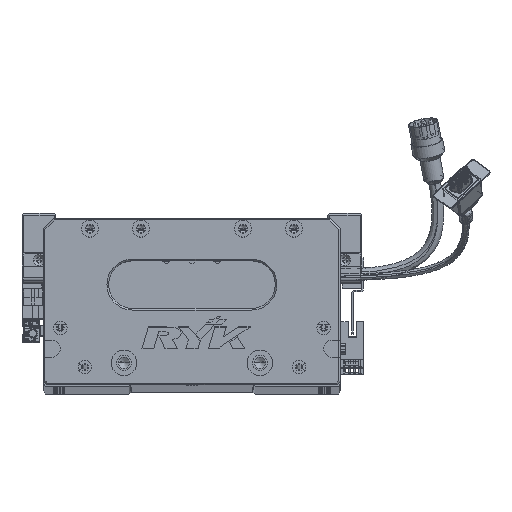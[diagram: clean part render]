
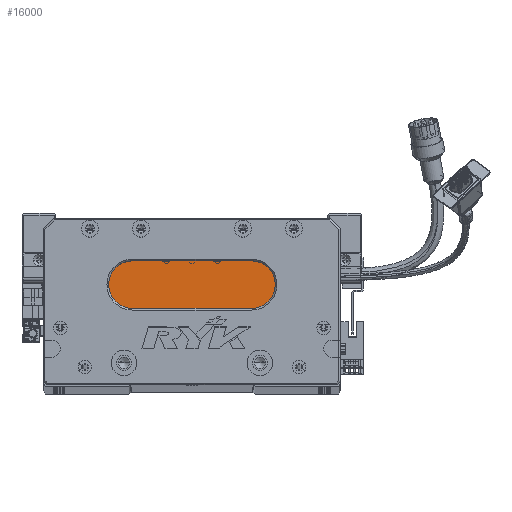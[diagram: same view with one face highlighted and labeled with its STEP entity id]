
A CAD part, top view. The second image highlights one B-rep face of the part: STEP entity #16000.
In plain terms, the highlighted planar face has unit normal (0, 0, 1) as drawn and (0, 0, -1) by its records, which use the part's own axes.
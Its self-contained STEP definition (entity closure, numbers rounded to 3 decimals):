
#1073 = DIRECTION ( 'NONE',  ( 0., 0., -1. ) ) ;
#2616 = VERTEX_POINT ( 'NONE', #75886 ) ;
#4525 = DIRECTION ( 'NONE',  ( 0., 0., -1. ) ) ;
#4996 = VECTOR ( 'NONE', #9582, 1000. ) ;
#6523 = CARTESIAN_POINT ( 'NONE',  ( 122.5, 45., 18. ) ) ;
#8341 = EDGE_CURVE ( 'NONE', #2616, #100964, #73436, .T. ) ;
#8414 = CARTESIAN_POINT ( 'NONE',  ( 52.5, 45., 18. ) ) ;
#9582 = DIRECTION ( 'NONE',  ( 1., 0., 0. ) ) ;
#16000 = ADVANCED_FACE ( 'NONE', ( #41714 ), #43801, .T. ) ;
#29821 = ORIENTED_EDGE ( 'NONE', *, *, #91285, .T. ) ;
#31794 = CARTESIAN_POINT ( 'NONE',  ( 52.5, 59., 18. ) ) ;
#32357 = DIRECTION ( 'NONE',  ( 0., 0., -1. ) ) ;
#34288 = DIRECTION ( 'NONE',  ( -1., 0., 0. ) ) ;
#35037 = EDGE_CURVE ( 'NONE', #100964, #66537, #46568, .T. ) ;
#35938 = ORIENTED_EDGE ( 'NONE', *, *, #114820, .T. ) ;
#41714 = FACE_OUTER_BOUND ( 'NONE', #104971, .T. ) ;
#43464 = DIRECTION ( 'NONE',  ( -1., 0., 0. ) ) ;
#43801 = PLANE ( 'NONE',  #112563 ) ;
#46568 = CIRCLE ( 'NONE', #122686, 14. ) ;
#47788 = LINE ( 'NONE', #116438, #4996 ) ;
#49805 = AXIS2_PLACEMENT_3D ( 'NONE', #72156, #32357, #43464 ) ;
#51084 = DIRECTION ( 'NONE',  ( -1., 0., 0. ) ) ;
#54533 = CIRCLE ( 'NONE', #85004, 14. ) ;
#55951 = CARTESIAN_POINT ( 'NONE',  ( 52.5, 59., 18. ) ) ;
#66537 = VERTEX_POINT ( 'NONE', #110566 ) ;
#70300 = CIRCLE ( 'NONE', #49805, 14. ) ;
#72156 = CARTESIAN_POINT ( 'NONE',  ( 122.5, 59., 18. ) ) ;
#73436 = LINE ( 'NONE', #6523, #79544 ) ;
#73539 = ORIENTED_EDGE ( 'NONE', *, *, #8341, .T. ) ;
#75886 = CARTESIAN_POINT ( 'NONE',  ( 122.5, 45., 18. ) ) ;
#76319 = CARTESIAN_POINT ( 'NONE',  ( 52.5, 73., 18. ) ) ;
#79544 = VECTOR ( 'NONE', #121937, 1000. ) ;
#85004 = AXIS2_PLACEMENT_3D ( 'NONE', #55951, #89818, #34288 ) ;
#89818 = DIRECTION ( 'NONE',  ( 0., 0., -1. ) ) ;
#91285 = EDGE_CURVE ( 'NONE', #112738, #111799, #47788, .T. ) ;
#95886 = CARTESIAN_POINT ( 'NONE',  ( 122.5, 73., 18. ) ) ;
#100833 = EDGE_CURVE ( 'NONE', #111799, #2616, #70300, .T. ) ;
#100964 = VERTEX_POINT ( 'NONE', #8414 ) ;
#101998 = DIRECTION ( 'NONE',  ( -1., 0., 0. ) ) ;
#104971 = EDGE_LOOP ( 'NONE', ( #119475, #73539, #114461, #35938, #29821 ) ) ;
#110566 = CARTESIAN_POINT ( 'NONE',  ( 38.5, 59., 18. ) ) ;
#111799 = VERTEX_POINT ( 'NONE', #95886 ) ;
#112563 = AXIS2_PLACEMENT_3D ( 'NONE', #122032, #4525, #101998 ) ;
#112738 = VERTEX_POINT ( 'NONE', #76319 ) ;
#114461 = ORIENTED_EDGE ( 'NONE', *, *, #35037, .T. ) ;
#114820 = EDGE_CURVE ( 'NONE', #66537, #112738, #54533, .T. ) ;
#116438 = CARTESIAN_POINT ( 'NONE',  ( 122.5, 73., 18. ) ) ;
#119475 = ORIENTED_EDGE ( 'NONE', *, *, #100833, .T. ) ;
#121937 = DIRECTION ( 'NONE',  ( -1., 0., 0. ) ) ;
#122032 = CARTESIAN_POINT ( 'NONE',  ( 122.5, 59., 18. ) ) ;
#122686 = AXIS2_PLACEMENT_3D ( 'NONE', #31794, #1073, #51084 ) ;
